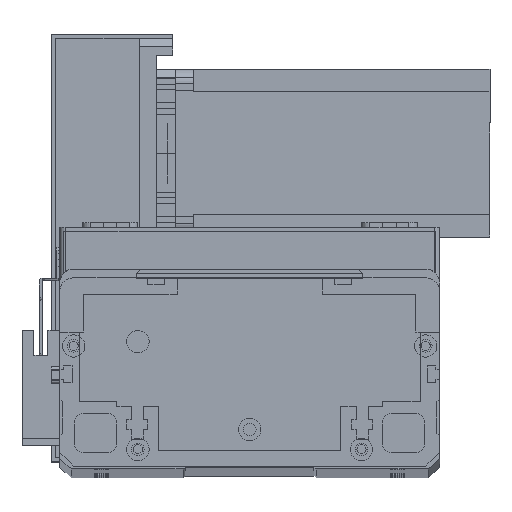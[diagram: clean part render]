
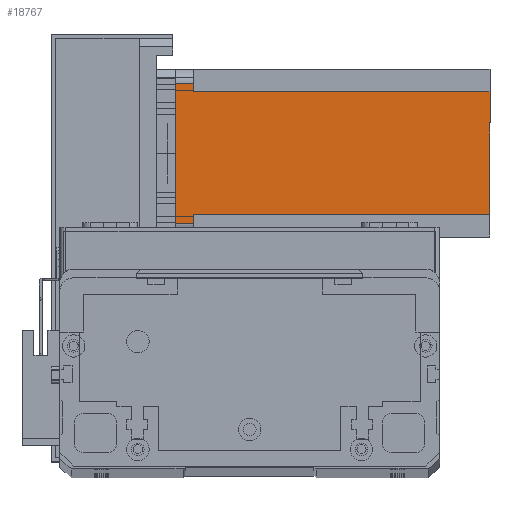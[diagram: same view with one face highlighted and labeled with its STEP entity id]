
A CAD part, top view. The second image highlights one B-rep face of the part: STEP entity #18767.
In plain terms, the highlighted planar face has unit normal (0, 0, 1) as drawn and (0, -1, 0) by its records, which use the part's own axes.
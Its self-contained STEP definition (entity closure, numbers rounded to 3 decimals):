
#1029 = CARTESIAN_POINT ( 'NONE',  ( 8., 0., -6.5 ) ) ;
#2064 = CARTESIAN_POINT ( 'NONE',  ( 0., 0., 0. ) ) ;
#2184 = DIRECTION ( 'NONE',  ( 0., 0., -1. ) ) ;
#3385 = ORIENTED_EDGE ( 'NONE', *, *, #17815, .F. ) ;
#3724 = LINE ( 'NONE', #20921, #21595 ) ;
#3954 = CARTESIAN_POINT ( 'NONE',  ( 52., 0., -112.5 ) ) ;
#4563 = VERTEX_POINT ( 'NONE', #8628 ) ;
#5026 = CARTESIAN_POINT ( 'NONE',  ( 8., 0., -112.5 ) ) ;
#5184 = ORIENTED_EDGE ( 'NONE', *, *, #25477, .F. ) ;
#5780 = CARTESIAN_POINT ( 'NONE',  ( 5., 0., -6.5 ) ) ;
#6510 = VERTEX_POINT ( 'NONE', #22442 ) ;
#6547 = AXIS2_PLACEMENT_3D ( 'NONE', #15948, #20685, #6742 ) ;
#6606 = LINE ( 'NONE', #1029, #22977 ) ;
#6695 = EDGE_CURVE ( 'NONE', #6510, #18586, #24282, .T. ) ;
#6742 = DIRECTION ( 'NONE',  ( 0., 0., -1. ) ) ;
#7467 = EDGE_CURVE ( 'NONE', #6510, #22285, #29900, .T. ) ;
#8001 = DIRECTION ( 'NONE',  ( -1., 0., 0. ) ) ;
#8004 = LINE ( 'NONE', #14798, #25764 ) ;
#8628 = CARTESIAN_POINT ( 'NONE',  ( 5., 0., 0. ) ) ;
#9318 = ORIENTED_EDGE ( 'NONE', *, *, #27622, .T. ) ;
#9415 = LINE ( 'NONE', #2064, #10889 ) ;
#10040 = ORIENTED_EDGE ( 'NONE', *, *, #12595, .F. ) ;
#10136 = VERTEX_POINT ( 'NONE', #5026 ) ;
#10468 = EDGE_CURVE ( 'NONE', #18586, #26961, #16598, .T. ) ;
#10889 = VECTOR ( 'NONE', #20846, 1000. ) ;
#11111 = ORIENTED_EDGE ( 'NONE', *, *, #17248, .T. ) ;
#11393 = DIRECTION ( 'NONE',  ( 0., 0., 1. ) ) ;
#11800 = ORIENTED_EDGE ( 'NONE', *, *, #10468, .T. ) ;
#12595 = EDGE_CURVE ( 'NONE', #28828, #15745, #6606, .T. ) ;
#12745 = DIRECTION ( 'NONE',  ( 0., 0., 1. ) ) ;
#13686 = CARTESIAN_POINT ( 'NONE',  ( 55., 0., 0. ) ) ;
#13908 = EDGE_LOOP ( 'NONE', ( #19751, #11800, #5184, #11111, #10040, #3385, #9318, #26689 ) ) ;
#14798 = CARTESIAN_POINT ( 'NONE',  ( 5., 0., -112.5 ) ) ;
#15745 = VERTEX_POINT ( 'NONE', #5780 ) ;
#15891 = VECTOR ( 'NONE', #11393, 1000. ) ;
#15948 = CARTESIAN_POINT ( 'NONE',  ( 0., 0., -112.5 ) ) ;
#16598 = LINE ( 'NONE', #29687, #15891 ) ;
#16840 = CARTESIAN_POINT ( 'NONE',  ( 52., 0., -6.5 ) ) ;
#16847 = DIRECTION ( 'NONE',  ( 1., 0., 0. ) ) ;
#17248 = EDGE_CURVE ( 'NONE', #4563, #15745, #8004, .T. ) ;
#17456 = LINE ( 'NONE', #28734, #23610 ) ;
#17815 = EDGE_CURVE ( 'NONE', #10136, #28828, #17456, .T. ) ;
#18365 = PLANE ( 'NONE',  #6547 ) ;
#18586 = VERTEX_POINT ( 'NONE', #29186 ) ;
#18587 = DIRECTION ( 'NONE',  ( 1., 0., 0. ) ) ;
#18767 = ADVANCED_FACE ( 'NONE', ( #18857 ), #18365, .T. ) ;
#18857 = FACE_OUTER_BOUND ( 'NONE', #13908, .T. ) ;
#18869 = VECTOR ( 'NONE', #16847, 1000. ) ;
#19751 = ORIENTED_EDGE ( 'NONE', *, *, #6695, .T. ) ;
#20685 = DIRECTION ( 'NONE',  ( 0., -1., 0. ) ) ;
#20846 = DIRECTION ( 'NONE',  ( 1., 0., 0. ) ) ;
#20921 = CARTESIAN_POINT ( 'NONE',  ( 0., 0., -112.5 ) ) ;
#21595 = VECTOR ( 'NONE', #18587, 1000. ) ;
#22285 = VERTEX_POINT ( 'NONE', #29727 ) ;
#22442 = CARTESIAN_POINT ( 'NONE',  ( 52., 0., -6.5 ) ) ;
#22977 = VECTOR ( 'NONE', #8001, 1000. ) ;
#23610 = VECTOR ( 'NONE', #12745, 1000. ) ;
#23890 = VECTOR ( 'NONE', #2184, 1000. ) ;
#24282 = LINE ( 'NONE', #16840, #18869 ) ;
#24657 = CARTESIAN_POINT ( 'NONE',  ( 8., 0., -6.5 ) ) ;
#25477 = EDGE_CURVE ( 'NONE', #4563, #26961, #9415, .T. ) ;
#25764 = VECTOR ( 'NONE', #26282, 1000. ) ;
#26282 = DIRECTION ( 'NONE',  ( 0., 0., -1. ) ) ;
#26689 = ORIENTED_EDGE ( 'NONE', *, *, #7467, .F. ) ;
#26961 = VERTEX_POINT ( 'NONE', #13686 ) ;
#27622 = EDGE_CURVE ( 'NONE', #10136, #22285, #3724, .T. ) ;
#28734 = CARTESIAN_POINT ( 'NONE',  ( 8., 0., -112.5 ) ) ;
#28828 = VERTEX_POINT ( 'NONE', #24657 ) ;
#29186 = CARTESIAN_POINT ( 'NONE',  ( 55., 0., -6.5 ) ) ;
#29687 = CARTESIAN_POINT ( 'NONE',  ( 55., 0., -112.5 ) ) ;
#29727 = CARTESIAN_POINT ( 'NONE',  ( 52., 0., -112.5 ) ) ;
#29900 = LINE ( 'NONE', #3954, #23890 ) ;
